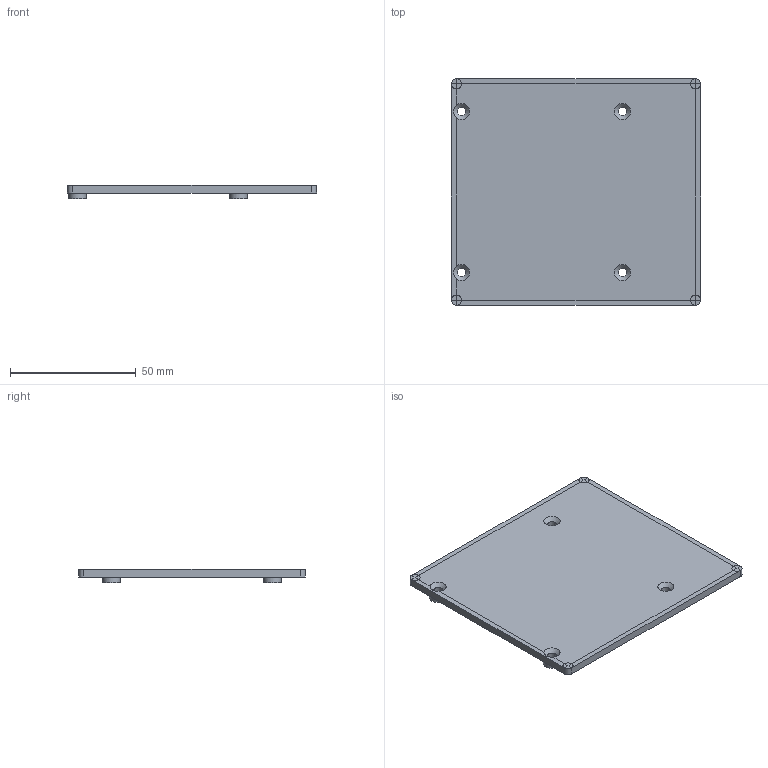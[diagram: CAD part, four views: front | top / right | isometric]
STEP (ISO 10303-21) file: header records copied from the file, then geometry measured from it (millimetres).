
FILE_DESCRIPTION(('Open CASCADE Model'),'2;1');
FILE_NAME('Open CASCADE Shape Model','2026-11-15T14:17:52',('Author'),( 'Open CASCADE'),'Open CASCADE STEP processor 8.0','Open CASCADE 8.0' ,'Unknown');
FILE_SCHEMA(('AUTOMOTIVE_DESIGN { 1 0 10303 214 1 1 1 1 }'));
Length unit declared in the file: millimetre
Products named in the file (1): Pi5_Velcro_Tray
Bounding box: 99 x 90 x 5.2 mm (x, y, z)
Volume: 26807.3 mm3; surface area: 19254.1 mm2
Topology: 1 solids, 1 shells, 66 faces, 132 edges, 68 vertices
Faces by surface type: plane 50, cylinder 12, cone 4
Full cylindrical faces by diameter (mm): 3.4 x4, 7 x4
Entity records: 3407 total; most frequent: DIRECTION 588, CARTESIAN_POINT 533, ORIENTED_EDGE 264, PCURVE 264, DEFINITIONAL_REPRESENTATION 264, LINE 254, VECTOR 254, CIRCLE 140
